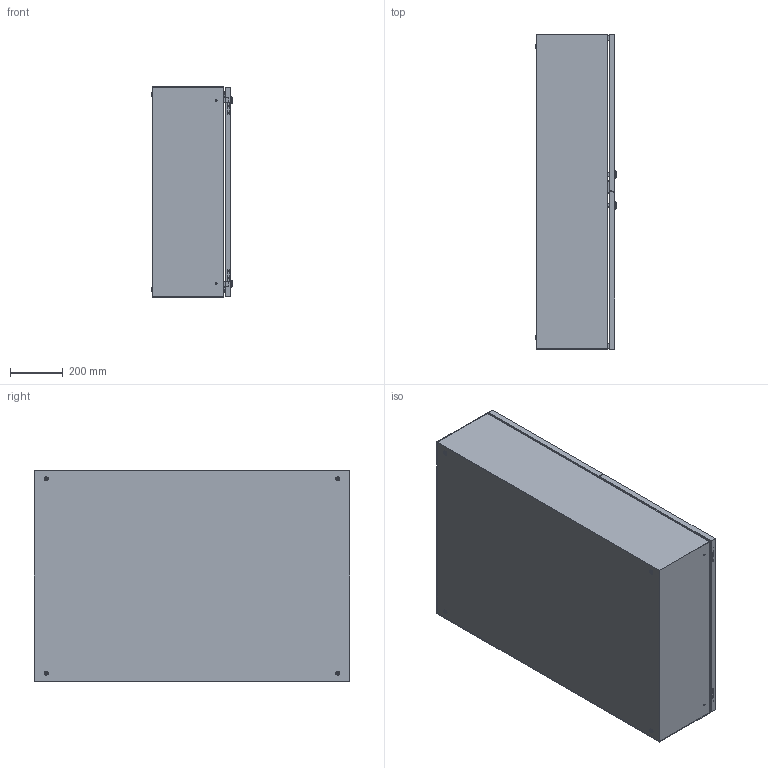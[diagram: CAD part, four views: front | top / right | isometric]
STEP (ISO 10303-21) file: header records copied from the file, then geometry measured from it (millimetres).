
FILE_DESCRIPTION(/* description */ ('Unknown'),/* implementation_level */ '2;1');
FILE_NAME(/* name */ 'CCA12008030',/* time_stamp */ '2024-08-02T14:24:04+02:00',/* author */ ('Unknown'),/* organization */ ('Unknown'),/* preprocessor_version */ 'ST-DEVELOPER v19.4',/* originating_system */ 'Solid Edge',/* authorisation */ 'Unknown');
FILE_SCHEMA (('AUTOMOTIVE_DESIGN {1 0 10303 214 3 1 1}'));
Length unit declared in the file: millimetre
Products named in the file (24): CCA12008030; C000X001.06; C000X001.07; C0000000.89; C0000000.02; AE00198.02; AE00989.10; AE00417.01; C000X001.05_oa_0; C0000000.49; C0000000.04; C0000000.05; AE00316.01; AE00601.01; AE00891.02; C0000000.01; AE00121.01; C0000000.06; C0000001.23; C0000000.06_GOMMA; AE00906.05_oa_1; C000X001.08_oa_2; C000X001.09_oa_3; C0000000.90
Assembly tree (65 placements, depth 4):
  CCA12008030
    C000X001.06
      C000X001.07
        C0000000.89
      C0000000.02  x2
      AE00198.02  x2
      AE00989.10  x2
      AE00417.01  x2
    AE00198.02  x4
    C000X001.05_oa_0
      C0000000.49
      C0000000.04  x4
      C0000000.05  x4
      AE00316.01  x4
      AE00601.01  x4
      AE00891.02  x4
      C0000000.01  x4
      AE00417.01  x4
      AE00121.01  x4
      C0000000.06  x2
        C0000001.23
        C0000000.06_GOMMA
      AE00906.05_oa_1
    C000X001.08_oa_2
      C000X001.09_oa_3
        C0000000.90
      C0000000.02  x2
      AE00198.02  x2
      AE00989.10  x2
      AE00417.01  x2
Bounding box: 305 x 1200 x 800 mm (x, y, z)
Volume: 7729441.3 mm3; surface area: 6491901.6 mm2
Topology: 64 solids, 64 shells, 1301 faces, 3170 edges, 2060 vertices
Faces by surface type: plane 841, cylinder 320, torus 76, cone 64
Full cylindrical faces by diameter (mm): 2.6 x4, 4 x8, 4.8 x4, 4.917 x8, 4.918 x4, 5.4 x4, 6 x24, 6.4 x4, 7.5 x8, 8 x8, 8.376 x8, 10 x8, 10.25 x4, 10.5 x8, 11 x4, 13.6 x4, 14 x8, 15 x4, 16 x8, 16.3 x4, 19.5 x4, 28 x4
Entity records: 14625 total; most frequent: CARTESIAN_POINT 2260, DIRECTION 2204, ORIENTED_EDGE 1998, EDGE_CURVE 999, AXIS2_PLACEMENT_3D 738, LINE 728, VECTOR 728, VERTEX_POINT 685
